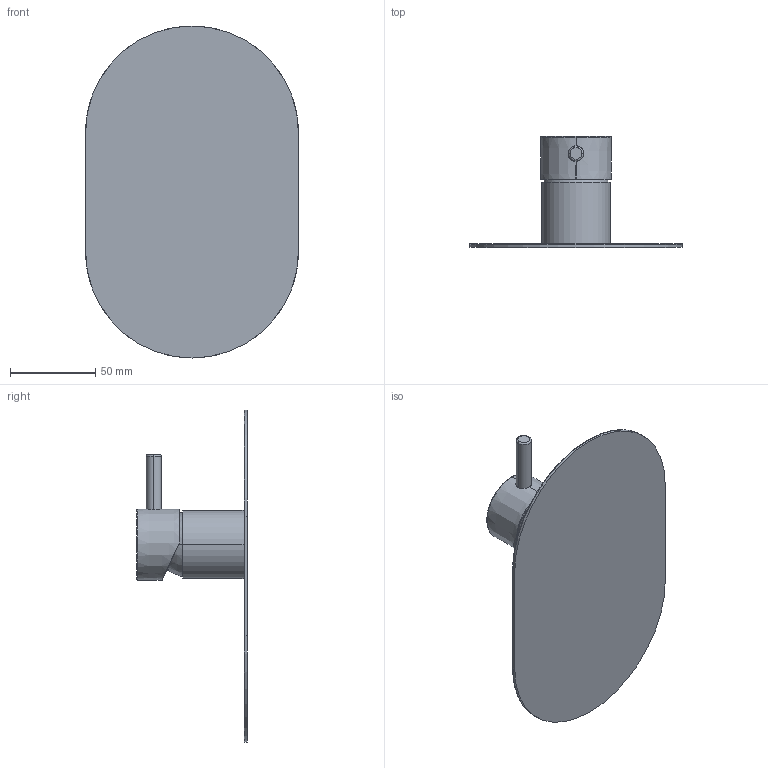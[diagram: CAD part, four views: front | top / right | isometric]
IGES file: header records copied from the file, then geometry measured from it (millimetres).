
Start section:  PTC IGES file: 12511.igs
Global section: file name: 12511.igs; native system: Creo Parametric by PTC Inc.; preprocessor: 2022014; author: carloff; organization: Unknown; date: 20250226.102036; units: millimetre
Bounding box: 125 x 65.1 x 195 mm (x, y, z)
Surface area: 59780.6 mm2 (no closed solid volume)
Topology: 0 solids, 0 shells, 160 faces, 830 edges, 826 vertices
Faces by surface type: bspline 90, revolution 70
